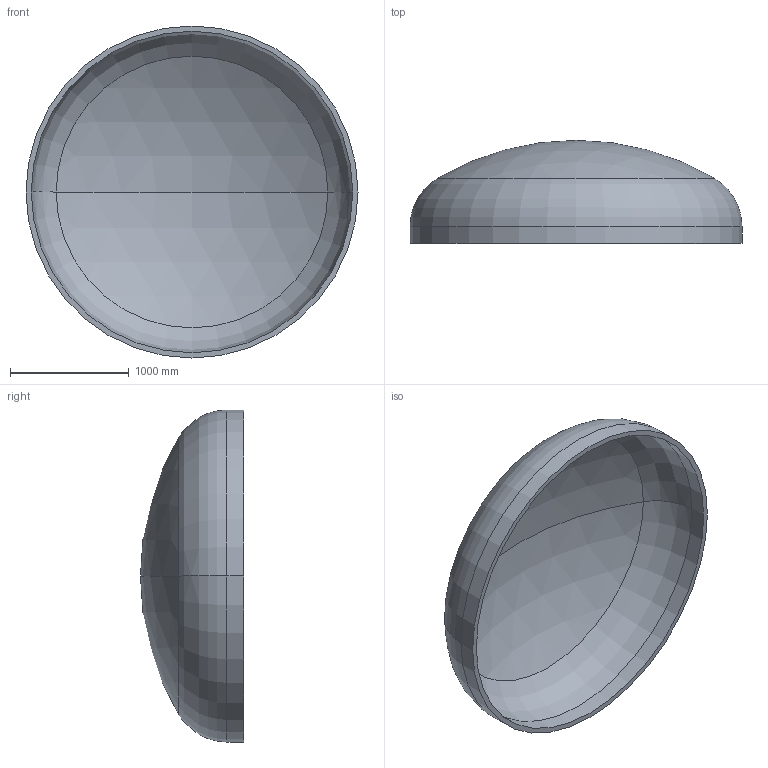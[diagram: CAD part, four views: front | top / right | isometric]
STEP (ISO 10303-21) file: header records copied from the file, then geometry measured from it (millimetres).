
FILE_DESCRIPTION (( 'STEP AP203' ), '1' );
FILE_NAME ('DIN 28013 Korbbogenform_-_Boden DIN 28013 - 2800 x 140 - I - s=44.step', '2016-07-01T17:00:16', ( '' ), ( '' ), 'SwSTEP 2.0', 'SolidWorks 2013', '' );
FILE_SCHEMA (( 'CONFIG_CONTROL_DESIGN' ));
Length unit declared in the file: millimetre
Products named in the file (1): DIN 28013 Korbbogenform_-_Boden DIN 28013 - 2800 x 140 - I - s=44
Bounding box: 2800 x 868.81 x 2800 mm (x, y, z)
Volume: 420664311.9 mm3; surface area: 19506115.5 mm2
Topology: 1 solids, 1 shells, 13 faces, 24 edges, 14 vertices
Faces by surface type: torus 4, cylinder 4, sphere 4, plane 1
Entity records: 407 total; most frequent: DIRECTION 72, CARTESIAN_POINT 52, ORIENTED_EDGE 48, AXIS2_PLACEMENT_3D 34, EDGE_CURVE 24, CIRCLE 20, EDGE_LOOP 14, VERTEX_POINT 14
